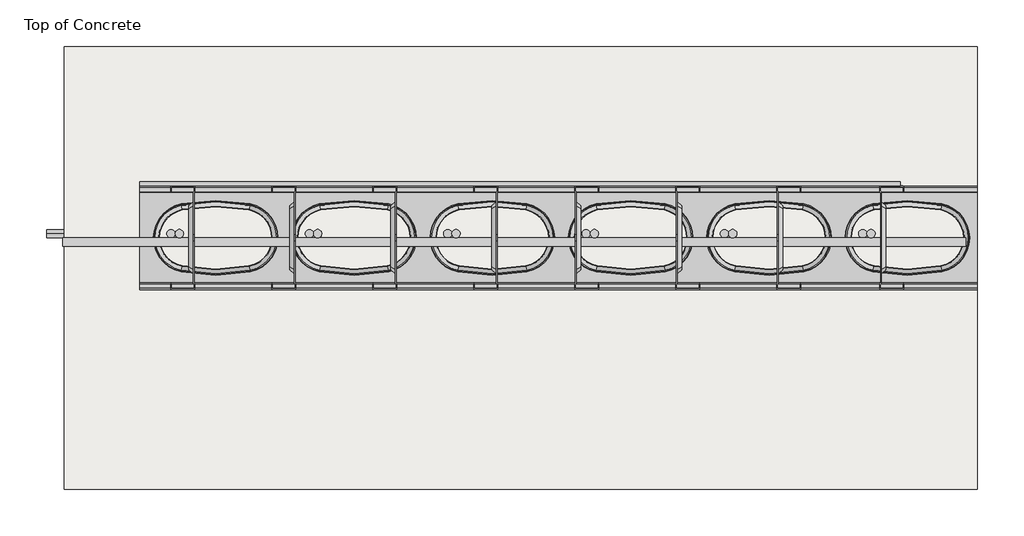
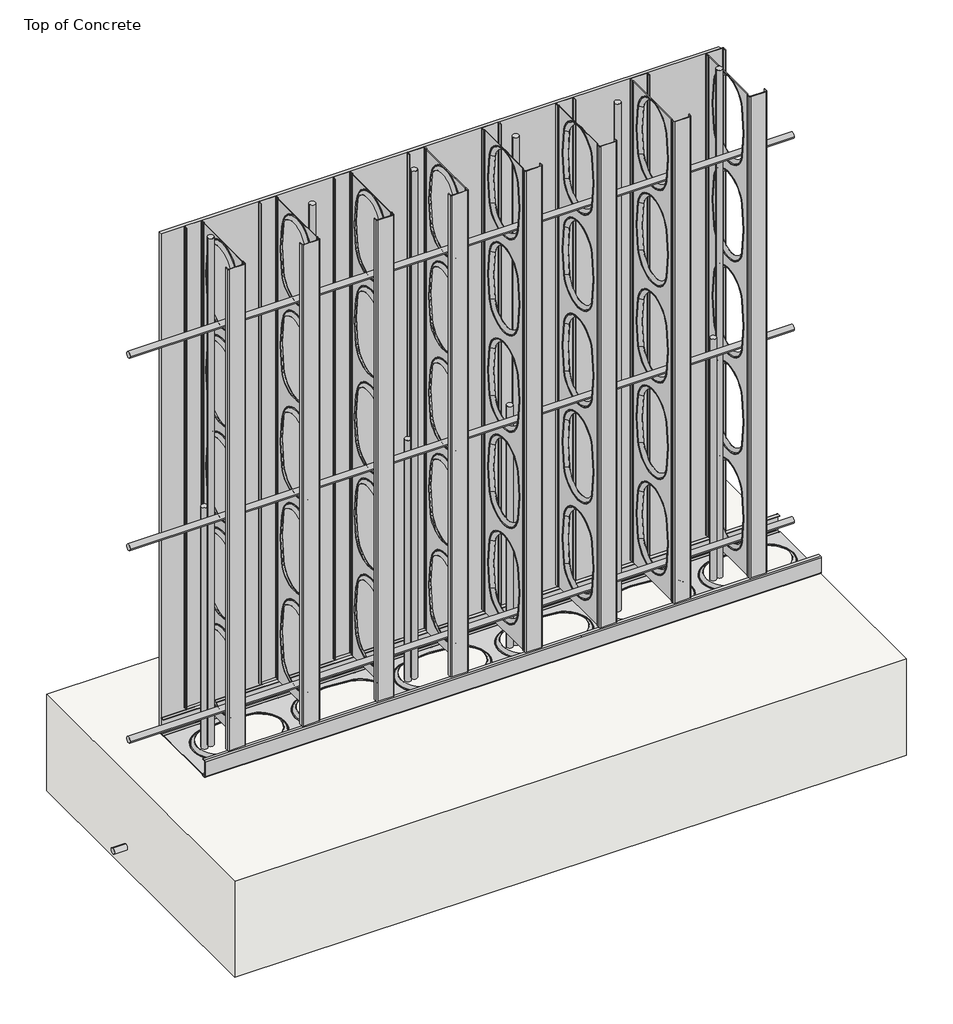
# One storey, incomplete: 25 proxies, 1 slab.
"""IFC4 building model written with IfcOpenShell, lengths in millimetres."""

from ifc_helpers import new_model, si_unit, frame, origin, origin_with_axes, place, context, project, spatial, polyline, outline, extrude, transform, mapped, element, save
from components import generic_models_67d9b5e8, generic_models_2680ca9b, generic_models_4f916ead, generic_models_f21598dd, generic_models_b8dcf46f, generic_models_bebb3639, onesteel_rnf_bar_onesteel_rnf_bar_horiz_eb721214, onesteel_rnf_bar_onesteel_rnf_bar_vert_0c4c5851, onesteel_rnf_bar_starter_onesteel_rnf_bar_vert_be2ae213

model = new_model("IFC4")

# Units and contexts
model_context = context("Model", 3, world=origin())
ifc_project = project(units=[si_unit("LENGTHUNIT", "METRE", prefix="MILLI")], contexts=[model_context])

# Site, building, storey
site = spatial("IfcSite", under=ifc_project)
building = spatial("IfcBuilding", under=site)
storey = spatial("IfcBuildingStorey", under=building, Name="Top of Concrete", Elevation=0.0)

# Proxies
placement = place(None, origin())
generic_models_shape = generic_models_67d9b5e8(model_context)
generic_models_2_shape = generic_models_2680ca9b(model_context)
generic_models_3_shape = generic_models_4f916ead(model_context)
element("IfcBuildingElementProxy", 1, Name="afs-LW-Stud-162 : afs-LW-Stud-162", ObjectType="afs-LW-Stud-162 : afs-LW-Stud-162", at=placement, inside=storey, context=model_context, shape_type="MappedRepresentation", body=[
    mapped(generic_models_shape, transform((-8283.6872823, 7598.2382122, 0.0), x_axis=(0.0, -1.0, 0.0), y_axis=(1.0, 0.0, 0.0), z_axis=(0.0, 0.0, 1.0))),
    mapped(generic_models_2_shape, transform((-8283.6872823, 7598.2382122, 0.0), x_axis=(0.0, -1.0, 0.0), y_axis=(1.0, 0.0, 0.0), z_axis=(0.0, 0.0, 1.0))),
    mapped(generic_models_3_shape, transform((-8283.6872823, 7598.2382122, 0.0), x_axis=(0.0, -1.0, 0.0), y_axis=(1.0, 0.0, 0.0), z_axis=(0.0, 0.0, 1.0))),
])
element("IfcBuildingElementProxy", 2, Name="afs-LW-Stud-162 : afs-LW-Stud-162", ObjectType="afs-LW-Stud-162 : afs-LW-Stud-162", at=placement, inside=storey, context=model_context, shape_type="MappedRepresentation", body=[
    mapped(generic_models_shape, transform((-8832.6872823, 7598.2382122, 0.0), x_axis=(0.0, 1.0, 0.0), y_axis=(-1.0, 0.0, 0.0), z_axis=(0.0, 0.0, 1.0))),
    mapped(generic_models_2_shape, transform((-8832.6872823, 7598.2382122, 0.0), x_axis=(0.0, 1.0, 0.0), y_axis=(-1.0, 0.0, 0.0), z_axis=(0.0, 0.0, 1.0))),
    mapped(generic_models_3_shape, transform((-8832.6872823, 7598.2382122, 0.0), x_axis=(0.0, 1.0, 0.0), y_axis=(-1.0, 0.0, 0.0), z_axis=(0.0, 0.0, 1.0))),
])
element("IfcBuildingElementProxy", 3, Name="afs-LW-Stud-162 : afs-LW-Stud-162", ObjectType="afs-LW-Stud-162 : afs-LW-Stud-162", at=placement, inside=storey, context=model_context, shape_type="MappedRepresentation", body=[
    mapped(generic_models_shape, transform((-8686.6872823, 7598.2382122, 0.0), x_axis=(0.0, 1.0, 0.0), y_axis=(-1.0, 0.0, 0.0), z_axis=(0.0, 0.0, 1.0))),
    mapped(generic_models_2_shape, transform((-8686.6872823, 7598.2382122, 0.0), x_axis=(0.0, 1.0, 0.0), y_axis=(-1.0, 0.0, 0.0), z_axis=(0.0, 0.0, 1.0))),
    mapped(generic_models_3_shape, transform((-8686.6872823, 7598.2382122, 0.0), x_axis=(0.0, 1.0, 0.0), y_axis=(-1.0, 0.0, 0.0), z_axis=(0.0, 0.0, 1.0))),
])
element("IfcBuildingElementProxy", 4, Name="afs-LW-Stud-162 : afs-LW-Stud-162", ObjectType="afs-LW-Stud-162 : afs-LW-Stud-162", at=placement, inside=storey, context=model_context, shape_type="MappedRepresentation", body=[
    mapped(generic_models_shape, transform((-8540.6872823, 7598.2382122, 0.0), x_axis=(0.0, 1.0, 0.0), y_axis=(-1.0, 0.0, 0.0), z_axis=(0.0, 0.0, 1.0))),
    mapped(generic_models_2_shape, transform((-8540.6872823, 7598.2382122, 0.0), x_axis=(0.0, 1.0, 0.0), y_axis=(-1.0, 0.0, 0.0), z_axis=(0.0, 0.0, 1.0))),
    mapped(generic_models_3_shape, transform((-8540.6872823, 7598.2382122, 0.0), x_axis=(0.0, 1.0, 0.0), y_axis=(-1.0, 0.0, 0.0), z_axis=(0.0, 0.0, 1.0))),
])
element("IfcBuildingElementProxy", 5, Name="afs-LW-Stud-162 : afs-LW-Stud-162", ObjectType="afs-LW-Stud-162 : afs-LW-Stud-162", at=placement, inside=storey, context=model_context, shape_type="MappedRepresentation", body=[
    mapped(generic_models_shape, transform((-8394.6872823, 7598.2382122, 0.0), x_axis=(0.0, 1.0, 0.0), y_axis=(-1.0, 0.0, 0.0), z_axis=(0.0, 0.0, 1.0))),
    mapped(generic_models_2_shape, transform((-8394.6872823, 7598.2382122, 0.0), x_axis=(0.0, 1.0, 0.0), y_axis=(-1.0, 0.0, 0.0), z_axis=(0.0, 0.0, 1.0))),
    mapped(generic_models_3_shape, transform((-8394.6872823, 7598.2382122, 0.0), x_axis=(0.0, 1.0, 0.0), y_axis=(-1.0, 0.0, 0.0), z_axis=(0.0, 0.0, 1.0))),
])
element("IfcBuildingElementProxy", 6, Name="afs-LW-Stud-162 : afs-LW-Stud-162", ObjectType="afs-LW-Stud-162 : afs-LW-Stud-162", at=placement, inside=storey, context=model_context, shape_type="MappedRepresentation", body=[
    mapped(generic_models_shape, transform((-8137.6872823, 7598.2382122, 0.0), x_axis=(0.0, -1.0, 0.0), y_axis=(1.0, 0.0, 0.0), z_axis=(0.0, 0.0, 1.0))),
    mapped(generic_models_2_shape, transform((-8137.6872823, 7598.2382122, 0.0), x_axis=(0.0, -1.0, 0.0), y_axis=(1.0, 0.0, 0.0), z_axis=(0.0, 0.0, 1.0))),
    mapped(generic_models_3_shape, transform((-8137.6872823, 7598.2382122, 0.0), x_axis=(0.0, -1.0, 0.0), y_axis=(1.0, 0.0, 0.0), z_axis=(0.0, 0.0, 1.0))),
])
element("IfcBuildingElementProxy", 7, Name="afs-LW-Stud-162 : afs-LW-Stud-162", ObjectType="afs-LW-Stud-162 : afs-LW-Stud-162", at=placement, inside=storey, context=model_context, shape_type="MappedRepresentation", body=[
    mapped(generic_models_shape, transform((-7842.6872823, 7598.2382122, 0.0), x_axis=(0.0, -1.0, 0.0), y_axis=(1.0, 0.0, 0.0), z_axis=(0.0, 0.0, 1.0))),
    mapped(generic_models_2_shape, transform((-7842.6872823, 7598.2382122, 0.0), x_axis=(0.0, -1.0, 0.0), y_axis=(1.0, 0.0, 0.0), z_axis=(0.0, 0.0, 1.0))),
    mapped(generic_models_3_shape, transform((-7842.6872823, 7598.2382122, 0.0), x_axis=(0.0, -1.0, 0.0), y_axis=(1.0, 0.0, 0.0), z_axis=(0.0, 0.0, 1.0))),
])
element("IfcBuildingElementProxy", 8, Name="afs-LW-Stud-162 : afs-LW-Stud-162", ObjectType="afs-LW-Stud-162 : afs-LW-Stud-162", at=placement, inside=storey, context=model_context, shape_type="MappedRepresentation", body=[
    mapped(generic_models_shape, transform((-7991.6872823, 7598.2382122, 0.0), x_axis=(0.0, -1.0, 0.0), y_axis=(1.0, 0.0, 0.0), z_axis=(0.0, 0.0, 1.0))),
    mapped(generic_models_2_shape, transform((-7991.6872823, 7598.2382122, 0.0), x_axis=(0.0, -1.0, 0.0), y_axis=(1.0, 0.0, 0.0), z_axis=(0.0, 0.0, 1.0))),
    mapped(generic_models_3_shape, transform((-7991.6872823, 7598.2382122, 0.0), x_axis=(0.0, -1.0, 0.0), y_axis=(1.0, 0.0, 0.0), z_axis=(0.0, 0.0, 1.0))),
])
generic_models_4_shape = generic_models_f21598dd(model_context)
generic_models_5_shape = generic_models_b8dcf46f(model_context)
generic_models_6_shape = generic_models_bebb3639(model_context)
element("IfcBuildingElementProxy", 9, Name="afs-LW-Track-162 : afs-LW-Track-162", ObjectType="afs-LW-Track-162 : afs-LW-Track-162", at=placement, inside=storey, context=model_context, shape_type="MappedRepresentation", body=[
    mapped(generic_models_4_shape, transform((-8912.6872823, 7598.2382122, 0.0), x_axis=(1.0, 0.0, 0.0), y_axis=(0.0, 1.0, 0.0), z_axis=(0.0, 0.0, 1.0))),
    mapped(generic_models_5_shape, transform((-8912.6872823, 7598.2382122, 0.0), x_axis=(1.0, 0.0, 0.0), y_axis=(0.0, 1.0, 0.0), z_axis=(0.0, 0.0, 1.0))),
    mapped(generic_models_6_shape, transform((-8912.6872823, 7598.2382122, 0.0), x_axis=(1.0, 0.0, 0.0), y_axis=(0.0, 1.0, 0.0), z_axis=(0.0, 0.0, 1.0))),
])
element("IfcBuildingElementProxy", 10, Name="CSR-Sheet : Cemintel 6mm", ObjectType="CSR-Sheet : Cemintel 6mm", at=placement, inside=storey, context=model_context, shape_type="SweptSolid", body=[
    extrude(outline(polyline([(-7812.6872823, 7679.2382122), (-7812.6872823, 7673.2382122), (-8912.6872823, 7673.2382122), (-8912.6872823, 7679.2382122), (-7812.6872823, 7679.2382122)])), origin_with_axes(), (0.0, 0.0, 1.0), 1040.0),
])
onesteel_rnf_bar_onesteel_rnf_bar_horiz_shape = onesteel_rnf_bar_onesteel_rnf_bar_horiz_eb721214(model_context)
element("IfcBuildingElementProxy", 11, Name="OneSteel-RNF-Bar : OneSteel-RNF-Bar-Horiz", ObjectType="OneSteel-RNF-Bar : OneSteel-RNF-Bar-Horiz", at=placement, inside=storey, context=model_context, shape_type="MappedRepresentation", body=[
    mapped(onesteel_rnf_bar_onesteel_rnf_bar_horiz_shape, transform((-9023.4055132, 7592.2382122, 75.8976103), x_axis=(1.0, 0.0, 0.0), y_axis=(0.0, 1.0, 0.0), z_axis=(0.0, 0.0, 1.0))),
])
element("IfcBuildingElementProxy", 12, Name="OneSteel-RNF-Bar : OneSteel-RNF-Bar-Horiz", ObjectType="OneSteel-RNF-Bar : OneSteel-RNF-Bar-Horiz", at=placement, inside=storey, context=model_context, shape_type="MappedRepresentation", body=[
    mapped(onesteel_rnf_bar_onesteel_rnf_bar_horiz_shape, transform((-9023.4055132, 7592.2382122, 475.8976103), x_axis=(1.0, 0.0, 0.0), y_axis=(0.0, 1.0, 0.0), z_axis=(0.0, 0.0, 1.0))),
])
element("IfcBuildingElementProxy", 13, Name="OneSteel-RNF-Bar : OneSteel-RNF-Bar-Horiz", ObjectType="OneSteel-RNF-Bar : OneSteel-RNF-Bar-Horiz", at=placement, inside=storey, context=model_context, shape_type="MappedRepresentation", body=[
    mapped(onesteel_rnf_bar_onesteel_rnf_bar_horiz_shape, transform((-9023.4055132, 7592.2382122, 875.8976103), x_axis=(1.0, 0.0, 0.0), y_axis=(0.0, 1.0, 0.0), z_axis=(0.0, 0.0, 1.0))),
])
onesteel_rnf_bar_onesteel_rnf_bar_vert_shape = onesteel_rnf_bar_onesteel_rnf_bar_vert_0c4c5851(model_context)
element("IfcBuildingElementProxy", 14, Name="OneSteel-RNF-Bar : OneSteel-RNF-Bar-Vert", ObjectType="OneSteel-RNF-Bar : OneSteel-RNF-Bar-Vert", at=placement, inside=storey, context=model_context, shape_type="MappedRepresentation", body=[
    mapped(onesteel_rnf_bar_onesteel_rnf_bar_vert_shape, transform((-8455.1872823, 7604.2382122, 0.0), x_axis=(0.0, 0.0, 1.0), y_axis=(1.0, 0.0, 0.0), z_axis=(0.0, 1.0, 0.0))),
])
element("IfcBuildingElementProxy", 15, Name="OneSteel-RNF-Bar : OneSteel-RNF-Bar-Vert", ObjectType="OneSteel-RNF-Bar : OneSteel-RNF-Bar-Vert", at=placement, inside=storey, context=model_context, shape_type="MappedRepresentation", body=[
    mapped(onesteel_rnf_bar_onesteel_rnf_bar_vert_shape, transform((-8655.1872823, 7604.2382122, 0.0), x_axis=(0.0, 0.0, 1.0), y_axis=(1.0, 0.0, 0.0), z_axis=(0.0, 1.0, 0.0))),
])
element("IfcBuildingElementProxy", 16, Name="OneSteel-RNF-Bar : OneSteel-RNF-Bar-Vert", ObjectType="OneSteel-RNF-Bar : OneSteel-RNF-Bar-Vert", at=placement, inside=storey, context=model_context, shape_type="MappedRepresentation", body=[
    mapped(onesteel_rnf_bar_onesteel_rnf_bar_vert_shape, transform((-8855.1872823, 7604.2382122, 0.0), x_axis=(0.0, 0.0, 1.0), y_axis=(1.0, 0.0, 0.0), z_axis=(0.0, 1.0, 0.0))),
])
element("IfcBuildingElementProxy", 17, Name="OneSteel-RNF-Bar : OneSteel-RNF-Bar-Vert", ObjectType="OneSteel-RNF-Bar : OneSteel-RNF-Bar-Vert", at=placement, inside=storey, context=model_context, shape_type="MappedRepresentation", body=[
    mapped(onesteel_rnf_bar_onesteel_rnf_bar_vert_shape, transform((-8255.1872823, 7604.2382122, 0.0), x_axis=(0.0, 0.0, 1.0), y_axis=(1.0, 0.0, 0.0), z_axis=(0.0, 1.0, 0.0))),
])
element("IfcBuildingElementProxy", 18, Name="OneSteel-RNF-Bar : OneSteel-RNF-Bar-Vert", ObjectType="OneSteel-RNF-Bar : OneSteel-RNF-Bar-Vert", at=placement, inside=storey, context=model_context, shape_type="MappedRepresentation", body=[
    mapped(onesteel_rnf_bar_onesteel_rnf_bar_vert_shape, transform((-8055.1872823, 7604.2382122, 0.0), x_axis=(0.0, 0.0, 1.0), y_axis=(1.0, 0.0, 0.0), z_axis=(0.0, 1.0, 0.0))),
])
element("IfcBuildingElementProxy", 19, Name="OneSteel-RNF-Bar : OneSteel-RNF-Bar-Vert", ObjectType="OneSteel-RNF-Bar : OneSteel-RNF-Bar-Vert", at=placement, inside=storey, context=model_context, shape_type="MappedRepresentation", body=[
    mapped(onesteel_rnf_bar_onesteel_rnf_bar_vert_shape, transform((-7855.1872823, 7604.2382122, 0.0), x_axis=(0.0, 0.0, 1.0), y_axis=(1.0, 0.0, 0.0), z_axis=(0.0, 1.0, 0.0))),
])
onesteel_rnf_bar_starter_onesteel_rnf_bar_vert_shape = onesteel_rnf_bar_starter_onesteel_rnf_bar_vert_be2ae213(model_context)
element("IfcBuildingElementProxy", 20, Name="OneSteel-RNF-Bar Starter : OneSteel-RNF-Bar-Vert", ObjectType="OneSteel-RNF-Bar Starter : OneSteel-RNF-Bar-Vert", at=placement, inside=storey, context=model_context, shape_type="MappedRepresentation", body=[
    mapped(onesteel_rnf_bar_starter_onesteel_rnf_bar_vert_shape, transform((-8867.1872823, 7604.2382122, 500.0), x_axis=(0.0, 0.0, -1.0), y_axis=(1.0, 0.0, 0.0), z_axis=(0.0, -1.0, 0.0))),
])
element("IfcBuildingElementProxy", 21, Name="OneSteel-RNF-Bar Starter : OneSteel-RNF-Bar-Vert", ObjectType="OneSteel-RNF-Bar Starter : OneSteel-RNF-Bar-Vert", at=placement, inside=storey, context=model_context, shape_type="MappedRepresentation", body=[
    mapped(onesteel_rnf_bar_starter_onesteel_rnf_bar_vert_shape, transform((-8667.1872823, 7604.2382122, 500.0), x_axis=(0.0, 0.0, -1.0), y_axis=(1.0, 0.0, 0.0), z_axis=(0.0, -1.0, 0.0))),
])
element("IfcBuildingElementProxy", 22, Name="OneSteel-RNF-Bar Starter : OneSteel-RNF-Bar-Vert", ObjectType="OneSteel-RNF-Bar Starter : OneSteel-RNF-Bar-Vert", at=placement, inside=storey, context=model_context, shape_type="MappedRepresentation", body=[
    mapped(onesteel_rnf_bar_starter_onesteel_rnf_bar_vert_shape, transform((-8467.1872823, 7604.2382122, 500.0), x_axis=(0.0, 0.0, -1.0), y_axis=(1.0, 0.0, 0.0), z_axis=(0.0, -1.0, 0.0))),
])
element("IfcBuildingElementProxy", 23, Name="OneSteel-RNF-Bar Starter : OneSteel-RNF-Bar-Vert", ObjectType="OneSteel-RNF-Bar Starter : OneSteel-RNF-Bar-Vert", at=placement, inside=storey, context=model_context, shape_type="MappedRepresentation", body=[
    mapped(onesteel_rnf_bar_starter_onesteel_rnf_bar_vert_shape, transform((-8267.1872823, 7604.2382122, 500.0), x_axis=(0.0, 0.0, -1.0), y_axis=(1.0, 0.0, 0.0), z_axis=(0.0, -1.0, 0.0))),
])
element("IfcBuildingElementProxy", 24, Name="OneSteel-RNF-Bar Starter : OneSteel-RNF-Bar-Vert", ObjectType="OneSteel-RNF-Bar Starter : OneSteel-RNF-Bar-Vert", at=placement, inside=storey, context=model_context, shape_type="MappedRepresentation", body=[
    mapped(onesteel_rnf_bar_starter_onesteel_rnf_bar_vert_shape, transform((-8067.1872823, 7604.2382122, 500.0), x_axis=(0.0, 0.0, -1.0), y_axis=(1.0, 0.0, 0.0), z_axis=(0.0, -1.0, 0.0))),
])
element("IfcBuildingElementProxy", 25, Name="OneSteel-RNF-Bar Starter : OneSteel-RNF-Bar-Vert", ObjectType="OneSteel-RNF-Bar Starter : OneSteel-RNF-Bar-Vert", at=placement, inside=storey, context=model_context, shape_type="MappedRepresentation", body=[
    mapped(onesteel_rnf_bar_starter_onesteel_rnf_bar_vert_shape, transform((-7867.1872823, 7604.2382122, 500.0), x_axis=(0.0, 0.0, -1.0), y_axis=(1.0, 0.0, 0.0), z_axis=(0.0, -1.0, 0.0))),
])

# Slab
element("IfcSlab", 26, ObjectType="afs 200mm", at=placement, inside=storey, context=model_context, shape_type="SweptSolid", body=[
    extrude(outline(polyline([(-7701.3620885, 7874.8744822), (-7701.3620885, 7234.8744822), (-9021.3620885, 7234.8744822), (-9021.3620885, 7874.8744822), (-7701.3620885, 7874.8744822)])), frame((0.0, 0.0, -202.0), z_axis=(0.0, 0.0, 1.0), x_axis=(1.0, 0.0, 0.0)), (0.0, 0.0, 1.0), 200.0),
])

save(model, "model.ifc")
